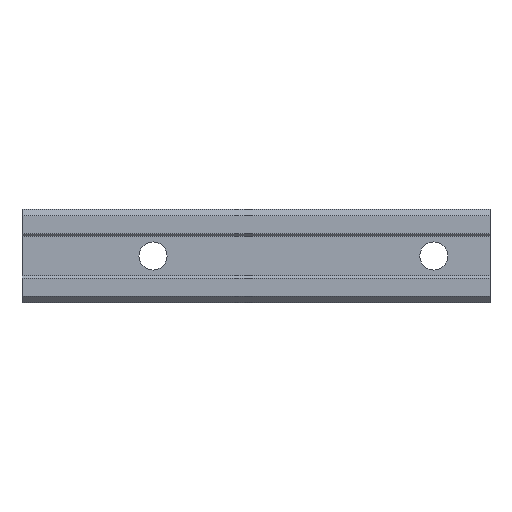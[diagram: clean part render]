
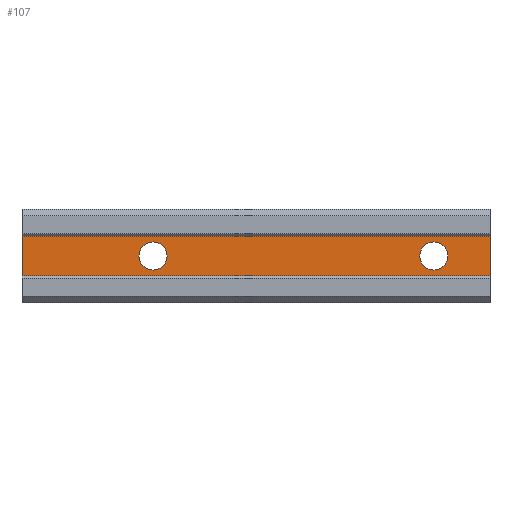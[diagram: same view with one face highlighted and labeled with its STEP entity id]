
A CAD part, front view. The second image highlights one B-rep face of the part: STEP entity #107.
In plain terms, the highlighted planar face has unit normal (0, -1, 0).
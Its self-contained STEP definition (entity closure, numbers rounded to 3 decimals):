
#107 = ADVANCED_FACE( '', ( #182, #183, #184 ), #185, .T. );
#182 = FACE_BOUND( '', #264, .T. );
#183 = FACE_BOUND( '', #265, .T. );
#184 = FACE_OUTER_BOUND( '', #266, .T. );
#185 = PLANE( '', #267 );
#264 = EDGE_LOOP( '', ( #506, #507 ) );
#265 = EDGE_LOOP( '', ( #508, #509 ) );
#266 = EDGE_LOOP( '', ( #510, #511, #512, #513 ) );
#267 = AXIS2_PLACEMENT_3D( '', #514, #515, #516 );
#506 = ORIENTED_EDGE( '', *, *, #612, .T. );
#507 = ORIENTED_EDGE( '', *, *, #611, .T. );
#508 = ORIENTED_EDGE( '', *, *, #616, .T. );
#509 = ORIENTED_EDGE( '', *, *, #603, .T. );
#510 = ORIENTED_EDGE( '', *, *, #687, .T. );
#511 = ORIENTED_EDGE( '', *, *, #688, .F. );
#512 = ORIENTED_EDGE( '', *, *, #689, .T. );
#513 = ORIENTED_EDGE( '', *, *, #685, .T. );
#514 = CARTESIAN_POINT( '', ( 0., 0.5, -4.25 ) );
#515 = DIRECTION( '', ( 0., -1., 0. ) );
#516 = DIRECTION( '', ( 0., 0., -1. ) );
#603 = EDGE_CURVE( '', #707, #711, #713, .T. );
#611 = EDGE_CURVE( '', #723, #727, #729, .T. );
#612 = EDGE_CURVE( '', #727, #723, #730, .T. );
#616 = EDGE_CURVE( '', #711, #707, #734, .T. );
#685 = EDGE_CURVE( '', #848, #846, #849, .T. );
#687 = EDGE_CURVE( '', #846, #851, #852, .T. );
#688 = EDGE_CURVE( '', #853, #851, #854, .T. );
#689 = EDGE_CURVE( '', #853, #848, #855, .T. );
#707 = VERTEX_POINT( '', #879 );
#711 = VERTEX_POINT( '', #884 );
#713 = CIRCLE( '', #887, 3. );
#723 = VERTEX_POINT( '', #899 );
#727 = VERTEX_POINT( '', #904 );
#729 = CIRCLE( '', #907, 3. );
#730 = CIRCLE( '', #908, 3. );
#734 = CIRCLE( '', #912, 3. );
#846 = VERTEX_POINT( '', #1084 );
#848 = VERTEX_POINT( '', #1087 );
#849 = LINE( '', #1088, #1089 );
#851 = VERTEX_POINT( '', #1092 );
#852 = LINE( '', #1093, #1094 );
#853 = VERTEX_POINT( '', #1095 );
#854 = LINE( '', #1096, #1097 );
#855 = LINE( '', #1098, #1099 );
#879 = CARTESIAN_POINT( '', ( 31., 0.5, 0. ) );
#884 = CARTESIAN_POINT( '', ( 25., 0.5, 0. ) );
#887 = AXIS2_PLACEMENT_3D( '', #1133, #1134, #1135 );
#899 = CARTESIAN_POINT( '', ( 91., 0.5, 0. ) );
#904 = CARTESIAN_POINT( '', ( 85., 0.5, 0. ) );
#907 = AXIS2_PLACEMENT_3D( '', #1149, #1150, #1151 );
#908 = AXIS2_PLACEMENT_3D( '', #1152, #1153, #1154 );
#912 = AXIS2_PLACEMENT_3D( '', #1164, #1165, #1166 );
#1084 = CARTESIAN_POINT( '', ( 100., 0.5, -4.25 ) );
#1087 = CARTESIAN_POINT( '', ( 0., 0.5, -4.25 ) );
#1088 = CARTESIAN_POINT( '', ( 0., 0.5, -4.25 ) );
#1089 = VECTOR( '', #1249, 1. );
#1092 = CARTESIAN_POINT( '', ( 100., 0.5, 4.25 ) );
#1093 = CARTESIAN_POINT( '', ( 100., 0.5, 4.25 ) );
#1094 = VECTOR( '', #1251, 1. );
#1095 = CARTESIAN_POINT( '', ( 0., 0.5, 4.25 ) );
#1096 = CARTESIAN_POINT( '', ( 0., 0.5, 4.25 ) );
#1097 = VECTOR( '', #1252, 1. );
#1098 = CARTESIAN_POINT( '', ( 0., 0.5, 4.25 ) );
#1099 = VECTOR( '', #1253, 1. );
#1133 = CARTESIAN_POINT( '', ( 28., 0.5, 0. ) );
#1134 = DIRECTION( '', ( 0., 1., 0. ) );
#1135 = DIRECTION( '', ( 1., 0., 0. ) );
#1149 = CARTESIAN_POINT( '', ( 88., 0.5, 0. ) );
#1150 = DIRECTION( '', ( 0., 1., 0. ) );
#1151 = DIRECTION( '', ( 1., 0., 0. ) );
#1152 = CARTESIAN_POINT( '', ( 88., 0.5, 0. ) );
#1153 = DIRECTION( '', ( 0., 1., 0. ) );
#1154 = DIRECTION( '', ( 1., 0., 0. ) );
#1164 = CARTESIAN_POINT( '', ( 28., 0.5, 0. ) );
#1165 = DIRECTION( '', ( 0., 1., 0. ) );
#1166 = DIRECTION( '', ( 1., 0., 0. ) );
#1249 = DIRECTION( '', ( 1., 0., 0. ) );
#1251 = DIRECTION( '', ( 0., 0., 1. ) );
#1252 = DIRECTION( '', ( 1., 0., 0. ) );
#1253 = DIRECTION( '', ( 0., 0., -1. ) );
